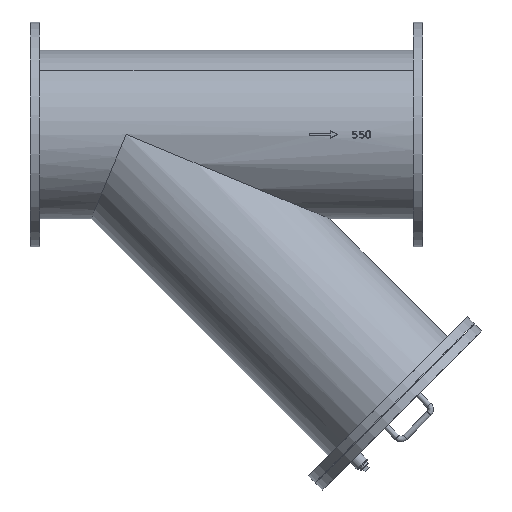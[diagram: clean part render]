
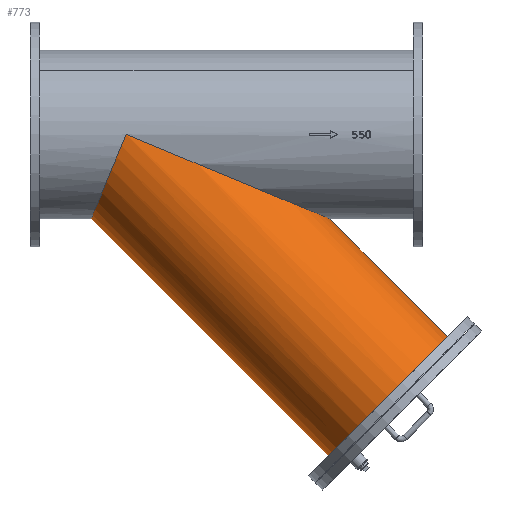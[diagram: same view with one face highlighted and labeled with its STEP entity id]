
A CAD part, front view. The second image highlights one B-rep face of the part: STEP entity #773.
In plain terms, the highlighted cylindrical face has radius 279.4 mm (diameter 558.8 mm), a partial arc.
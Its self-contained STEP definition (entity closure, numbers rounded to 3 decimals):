
#773=ADVANCED_FACE('',(#2511),#2510,.T.);
#2510=CYLINDRICAL_SURFACE('',#5937,279.4);
#2511=FACE_OUTER_BOUND('',#5938,.T.);
#5934=CARTESIAN_POINT('',(158.75,0.,158.75));
#5935=DIRECTION('',(-0.707,0.,0.707));
#5936=DIRECTION('',(0.707,0.,0.707));
#5937=AXIS2_PLACEMENT_3D('',#5934,#5935,#5936);
#5938=EDGE_LOOP('',(#8011,#8012,#8013,#8014,#8015));
#8011=ORIENTED_EDGE('',*,*,#9067,.F.);
#8012=ORIENTED_EDGE('',*,*,#9130,.T.);
#8013=ORIENTED_EDGE('',*,*,#9078,.F.);
#8014=ORIENTED_EDGE('',*,*,#9077,.F.);
#8015=ORIENTED_EDGE('',*,*,#9131,.F.);
#9067=EDGE_CURVE('',#12162,#12161,#12169,.T.);
#9077=EDGE_CURVE('',#12230,#12237,#12238,.T.);
#9078=EDGE_CURVE('',#12237,#12244,#12245,.T.);
#9130=EDGE_CURVE('',#12162,#12244,#12557,.T.);
#9131=EDGE_CURVE('',#12161,#12230,#12563,.T.);
#12161=VERTEX_POINT('',#17003);
#12162=VERTEX_POINT('',#17004);
#12169=CIRCLE('',#17012,279.4);
#12230=VERTEX_POINT('',#17048);
#12237=VERTEX_POINT('',#17052);
#12238=(BOUNDED_CURVE() B_SPLINE_CURVE(2,(#17053,#17054,#17055),.UNSPECIFIED.,.F.,.F.) B_SPLINE_CURVE_WITH_KNOTS((3,3),(6.283,7.854),.UNSPECIFIED.) CURVE() GEOMETRIC_REPRESENTATION_ITEM() RATIONAL_B_SPLINE_CURVE((1.,0.707,1.)) REPRESENTATION_ITEM('') );
#12244=VERTEX_POINT('',#17056);
#12245=(BOUNDED_CURVE() B_SPLINE_CURVE(2,(#17057,#17058,#17059),.UNSPECIFIED.,.F.,.F.) B_SPLINE_CURVE_WITH_KNOTS((3,3),(-4.712,-3.142),.UNSPECIFIED.) CURVE() GEOMETRIC_REPRESENTATION_ITEM() RATIONAL_B_SPLINE_CURVE((1.,0.707,1.)) REPRESENTATION_ITEM('') );
#12557=(BOUNDED_CURVE() B_SPLINE_CURVE(1,(#17163,#17164),.UNSPECIFIED.,.F.,.F.) B_SPLINE_CURVE_WITH_KNOTS((2,2),(0.008,0.451),.UNSPECIFIED.) CURVE() GEOMETRIC_REPRESENTATION_ITEM() RATIONAL_B_SPLINE_CURVE((1.,1.)) REPRESENTATION_ITEM('') );
#12563=(BOUNDED_CURVE() B_SPLINE_CURVE(1,(#17165,#17166),.UNSPECIFIED.,.F.,.F.) B_SPLINE_CURVE_WITH_KNOTS((2,2),(0.008,0.899),.UNSPECIFIED.) CURVE() GEOMETRIC_REPRESENTATION_ITEM() RATIONAL_B_SPLINE_CURVE((0.75,0.75)) REPRESENTATION_ITEM('') );
#17003=CARTESIAN_POINT('',(986.847,0.,-1064.479));
#17004=CARTESIAN_POINT('',(1381.979,0.,-669.347));
#17009=CARTESIAN_POINT('',(1184.413,0.,-866.913));
#17010=DIRECTION('',(0.707,0.,-0.707));
#17011=DIRECTION('',(-0.707,0.,-0.707));
#17012=AXIS2_PLACEMENT_3D('',#17009,#17010,#17011);
#17048=CARTESIAN_POINT('',(201.769,0.,-279.4));
#17052=CARTESIAN_POINT('',(317.5,-279.4,0.));
#17053=CARTESIAN_POINT('',(201.769,0.,-279.4));
#17054=CARTESIAN_POINT('',(201.769,-279.4,-279.4));
#17055=CARTESIAN_POINT('',(317.5,-279.4,0.));
#17056=CARTESIAN_POINT('',(992.031,0.,-279.4));
#17057=CARTESIAN_POINT('',(317.5,-279.4,0.));
#17058=CARTESIAN_POINT('',(992.031,-279.4,-279.4));
#17059=CARTESIAN_POINT('',(992.031,0.,-279.4));
#17163=CARTESIAN_POINT('',(1381.979,0.,-669.347));
#17164=CARTESIAN_POINT('',(992.031,0.,-279.4));
#17165=CARTESIAN_POINT('',(986.847,0.,-1064.479));
#17166=CARTESIAN_POINT('',(201.769,0.,-279.4));
